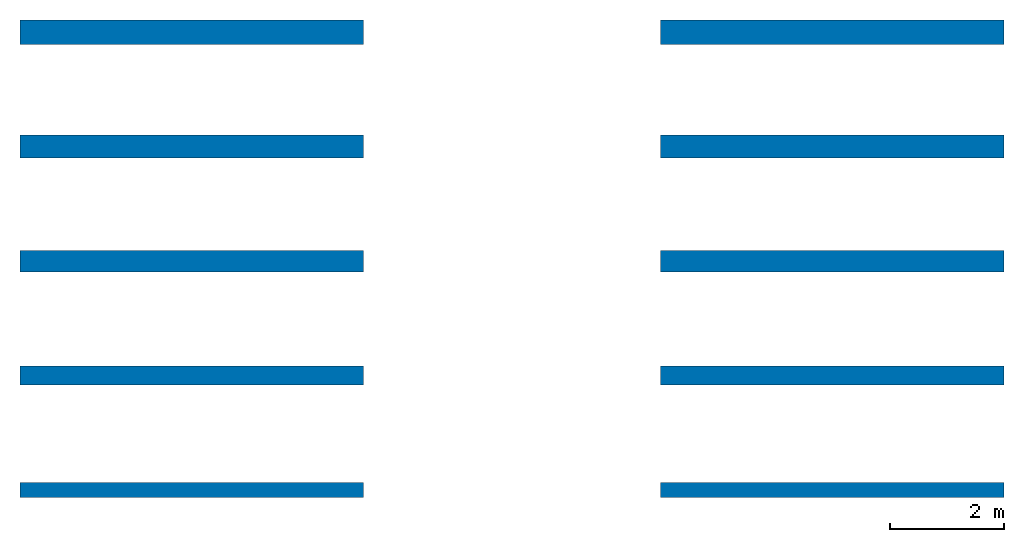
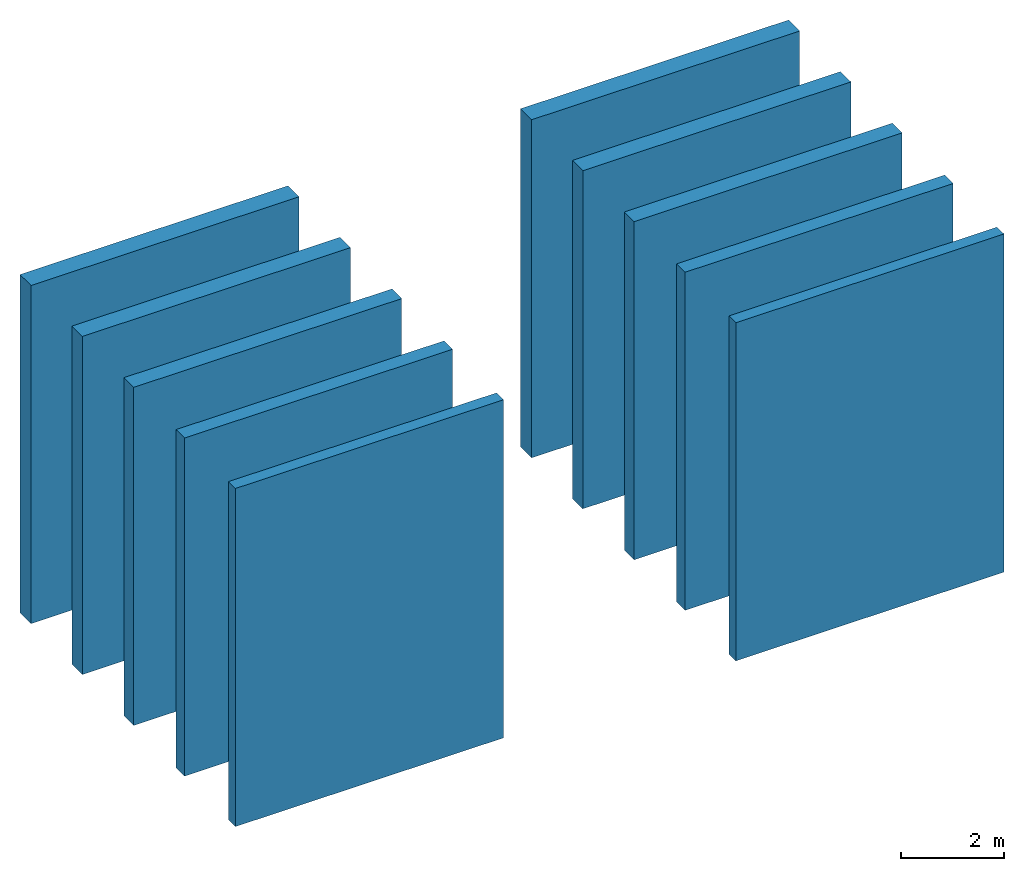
# One storey: 10 walls.
"""IFC2X3 building model written with IfcOpenShell, lengths in millimetres."""

from ifc_helpers import new_model, entity, si_unit, converted_unit, derived_unit, direction, frame, frame_2d, origin, place, context, subcontext, project, spatial, rectangle, extrude, material, layer, layer_set, layer_usage, type_object, element, save


model = new_model("IFC2X3")

# Units and contexts
model_context = context("Model", 3, precision=0.01, world=origin(), true_north=direction((6.12303176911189e-17, 1.0)))
context_of_model = context(None, 3, precision=0.01, world=origin(), true_north=direction((6.12303176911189e-17, 1.0)))
body_context = subcontext(model_context, "Body", "Model", "MODEL_VIEW")
ifc_project = project(units=[si_unit("LENGTHUNIT", "METRE", prefix="MILLI"), si_unit("AREAUNIT", "SQUARE_METRE"), si_unit("VOLUMEUNIT", "CUBIC_METRE"), converted_unit("PLANEANGLEUNIT", "DEGREE", entity("IfcRatioMeasure", 0.0174532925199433), si_unit("PLANEANGLEUNIT", "RADIAN"), dimensions=[0, 0, 0, 0, 0, 0, 0]), si_unit("MASSUNIT", "GRAM", prefix="KILO"), si_unit("TIMEUNIT", "SECOND"), si_unit("FREQUENCYUNIT", "HERTZ"), si_unit("THERMODYNAMICTEMPERATUREUNIT", "DEGREE_CELSIUS"), derived_unit("THERMALTRANSMITTANCEUNIT", [(si_unit("MASSUNIT", "GRAM", prefix="KILO"), 1), (si_unit("THERMODYNAMICTEMPERATUREUNIT", "KELVIN"), -1), (si_unit("TIMEUNIT", "SECOND"), -3)]), derived_unit("VOLUMETRICFLOWRATEUNIT", [(si_unit("LENGTHUNIT", "METRE"), 3), (si_unit("TIMEUNIT", "SECOND"), -1)]), si_unit("ELECTRICCURRENTUNIT", "AMPERE"), si_unit("ELECTRICVOLTAGEUNIT", "VOLT"), si_unit("POWERUNIT", "WATT"), si_unit("FORCEUNIT", "NEWTON", prefix="KILO"), si_unit("ILLUMINANCEUNIT", "LUX"), si_unit("LUMINOUSFLUXUNIT", "LUMEN"), si_unit("LUMINOUSINTENSITYUNIT", "CANDELA"), si_unit("PRESSUREUNIT", "PASCAL")], contexts=[model_context, context_of_model])

# Site, building, storey
site_placement = place(None, origin())
site = spatial("IfcSite", under=ifc_project, at=site_placement, Name="Default", CompositionType="ELEMENT")
building_placement = place(site_placement, origin())
building = spatial("IfcBuilding", under=site, at=building_placement, CompositionType="ELEMENT")
storey_placement = place(building_placement, origin())
storey = spatial("IfcBuildingStorey", under=building, at=storey_placement, Name="Livello 1", CompositionType="ELEMENT", Elevation=0.0)

# Walls
ifc_material_1 = material(Name="tonachino colorato ai silicati/silossani di finitura")
ifc_layer_1 = layer(ifc_material_1, 2.0)
ifc_material_2 = material(Name="GASBETON Multiraso esterni")
ifc_layer_2 = layer(ifc_material_2, 5.0)
ifc_material_3 = material(Name="GASBETON Multicem")
ifc_layer_3 = layer(ifc_material_3, 15.0)
ifc_material_4 = material(Name="GASBETON Sysmic")
ifc_layer_4 = layer(ifc_material_4, 400.0)
ifc_material_5 = material(Name="GASBETON Incollarasa")
ifc_layer_5 = layer(ifc_material_5, 5.00000000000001)
ifc_material_6 = material(Name="GASBETON Multiraso interni")
ifc_layer_6 = layer(ifc_material_6, 2.00000000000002)
ifc_layer_set_1 = layer_set([ifc_layer_1, ifc_layer_2, ifc_layer_3, ifc_layer_4, ifc_layer_5, ifc_layer_6], Name="Muro di base:Sistema GASBETON Sysmic sp. 429 mm muratura portante")
ifc_layer_usage_1 = layer_usage(ifc_layer_set_1, "AXIS2", "NEGATIVE", 214.5)
wall_type_1 = type_object("IfcWallType", Name="Muro di base:Sistema GASBETON Sysmic sp. 429 mm muratura portante", PredefinedType="STANDARD", material=ifc_layer_set_1)
wall_1_placement = place(storey_placement, frame((-2530.39888114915, 8446.74124989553, 0.0), z_axis=(0.0, 0.0, 1.0), x_axis=(-1.0, 0.0, 0.0)))
element("IfcWallStandardCase", 1, at=wall_1_placement, inside=storey, type_object=wall_type_1, material=ifc_layer_usage_1, Name="Muro di base:Sistema GASBETON Sysmic sp. 429 mm muratura portante", ObjectType="Muro di base:Sistema GASBETON Sysmic sp. 429 mm muratura portante", context=body_context, shape_type="SweptSolid", body=[
    extrude(rectangle(XDim=6000.0, YDim=429.0, at=frame_2d((3000.0, 0.0), x_axis=(-1.0, 0.0))), origin(), (0.0, 0.0, 1.0), 8000.0),
])
ifc_layer_7 = layer(ifc_material_1, 2.0)
ifc_layer_8 = layer(ifc_material_2, 5.0)
ifc_layer_9 = layer(ifc_material_3, 15.0)
ifc_layer_10 = layer(ifc_material_4, 375.0)
ifc_layer_11 = layer(ifc_material_5, 5.00000000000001)
ifc_layer_12 = layer(ifc_material_6, 2.00000000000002)
ifc_layer_set_2 = layer_set([ifc_layer_7, ifc_layer_8, ifc_layer_9, ifc_layer_10, ifc_layer_11, ifc_layer_12], Name="Muro di base:Sistema GASBETON Sysmic sp. 404 mm muratura portante")
ifc_layer_usage_2 = layer_usage(ifc_layer_set_2, "AXIS2", "NEGATIVE", 202.0)
wall_type_2 = type_object("IfcWallType", Name="Muro di base:Sistema GASBETON Sysmic sp. 404 mm muratura portante", PredefinedType="STANDARD", material=ifc_layer_set_2)
wall_2_placement = place(storey_placement, frame((-2530.39888114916, 6446.74124989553, 0.0), z_axis=(0.0, 0.0, 1.0), x_axis=(-1.0, 0.0, 0.0)))
element("IfcWallStandardCase", 2, at=wall_2_placement, inside=storey, type_object=wall_type_2, material=ifc_layer_usage_2, Name="Muro di base:Sistema GASBETON Sysmic sp. 404 mm muratura portante", ObjectType="Muro di base:Sistema GASBETON Sysmic sp. 404 mm muratura portante", context=body_context, shape_type="SweptSolid", body=[
    extrude(rectangle(XDim=6000.0, YDim=403.999999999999, at=frame_2d((3000.0, 0.0), x_axis=(-1.0, 0.0))), origin(), (0.0, 0.0, 1.0), 8000.0),
])
ifc_layer_13 = layer(ifc_material_1, 2.0)
ifc_layer_14 = layer(ifc_material_2, 5.0)
ifc_layer_15 = layer(ifc_material_3, 15.0)
ifc_layer_16 = layer(ifc_material_4, 350.0)
ifc_layer_17 = layer(ifc_material_5, 5.00000000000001)
ifc_layer_18 = layer(ifc_material_6, 2.00000000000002)
ifc_layer_set_3 = layer_set([ifc_layer_13, ifc_layer_14, ifc_layer_15, ifc_layer_16, ifc_layer_17, ifc_layer_18], Name="Muro di base:Sistema GASBETON Sysmic sp. 379 mm muratura portante")
ifc_layer_usage_3 = layer_usage(ifc_layer_set_3, "AXIS2", "NEGATIVE", 189.5)
wall_type_3 = type_object("IfcWallType", Name="Muro di base:Sistema GASBETON Sysmic sp. 379 mm muratura portante", PredefinedType="STANDARD", material=ifc_layer_set_3)
wall_3_placement = place(storey_placement, frame((-2530.39888114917, 4446.74124989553, 0.0), z_axis=(0.0, 0.0, 1.0), x_axis=(-1.0, 0.0, 0.0)))
element("IfcWallStandardCase", 3, at=wall_3_placement, inside=storey, type_object=wall_type_3, material=ifc_layer_usage_3, Name="Muro di base:Sistema GASBETON Sysmic sp. 379 mm muratura portante", ObjectType="Muro di base:Sistema GASBETON Sysmic sp. 379 mm muratura portante", context=body_context, shape_type="SweptSolid", body=[
    extrude(rectangle(XDim=6000.0, YDim=379.0, at=frame_2d((3000.0, 0.0), x_axis=(-1.0, 0.0))), origin(), (0.0, 0.0, 1.0), 8000.0),
])
ifc_layer_19 = layer(ifc_material_1, 2.0)
ifc_layer_20 = layer(ifc_material_2, 5.0)
ifc_layer_21 = layer(ifc_material_3, 15.0)
ifc_layer_22 = layer(ifc_material_4, 300.0)
ifc_layer_23 = layer(ifc_material_5, 5.00000000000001)
ifc_layer_24 = layer(ifc_material_6, 2.00000000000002)
ifc_layer_set_4 = layer_set([ifc_layer_19, ifc_layer_20, ifc_layer_21, ifc_layer_22, ifc_layer_23, ifc_layer_24], Name="Muro di base:Sistema GASBETON Sysmic sp. 329 mm muratura portante")
ifc_layer_usage_4 = layer_usage(ifc_layer_set_4, "AXIS2", "NEGATIVE", 164.5)
wall_type_4 = type_object("IfcWallType", Name="Muro di base:Sistema GASBETON Sysmic sp. 329 mm muratura portante", PredefinedType="STANDARD", material=ifc_layer_set_4)
wall_4_placement = place(storey_placement, frame((-2530.39888114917, 2446.74124989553, 0.0), z_axis=(0.0, 0.0, 1.0), x_axis=(-1.0, 0.0, 0.0)))
element("IfcWallStandardCase", 4, at=wall_4_placement, inside=storey, type_object=wall_type_4, material=ifc_layer_usage_4, Name="Muro di base:Sistema GASBETON Sysmic sp. 329 mm muratura portante", ObjectType="Muro di base:Sistema GASBETON Sysmic sp. 329 mm muratura portante", context=body_context, shape_type="SweptSolid", body=[
    extrude(rectangle(XDim=6000.0, YDim=329.0, at=frame_2d((3000.0, 0.0), x_axis=(-1.0, 0.0))), origin(), (0.0, 0.0, 1.0), 8000.0),
])
ifc_layer_25 = layer(ifc_material_1, 2.0)
ifc_layer_26 = layer(ifc_material_2, 5.0)
ifc_layer_27 = layer(ifc_material_3, 15.0)
ifc_layer_28 = layer(ifc_material_4, 240.0)
ifc_layer_29 = layer(ifc_material_5, 5.00000000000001)
ifc_layer_30 = layer(ifc_material_6, 2.00000000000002)
ifc_layer_set_5 = layer_set([ifc_layer_25, ifc_layer_26, ifc_layer_27, ifc_layer_28, ifc_layer_29, ifc_layer_30], Name="Muro di base:Sistema GASBETON Sysmic sp. 269 mm muratura portante")
ifc_layer_usage_5 = layer_usage(ifc_layer_set_5, "AXIS2", "NEGATIVE", 134.5)
wall_type_5 = type_object("IfcWallType", Name="Muro di base:Sistema GASBETON Sysmic sp. 269 mm muratura portante", PredefinedType="STANDARD", material=ifc_layer_set_5)
wall_5_placement = place(storey_placement, frame((-2530.39888114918, 446.741249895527, 0.0), z_axis=(0.0, 0.0, 1.0), x_axis=(-1.0, 0.0, 0.0)))
element("IfcWallStandardCase", 5, at=wall_5_placement, inside=storey, type_object=wall_type_5, material=ifc_layer_usage_5, Name="Muro di base:Sistema GASBETON Sysmic sp. 269 mm muratura portante", ObjectType="Muro di base:Sistema GASBETON Sysmic sp. 269 mm muratura portante", context=body_context, shape_type="SweptSolid", body=[
    extrude(rectangle(XDim=6000.0, YDim=269.0, at=frame_2d((3000.0, 0.0), x_axis=(-1.0, 0.0))), origin(), (0.0, 0.0, 1.0), 8000.0),
])
ifc_layer_31 = layer(ifc_material_1, 2.0)
ifc_layer_32 = layer(ifc_material_2, 5.0)
ifc_layer_33 = layer(ifc_material_3, 15.0)
ifc_layer_34 = layer(ifc_material_4, 240.0)
ifc_layer_35 = layer(ifc_material_5, 5.00000000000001)
ifc_layer_36 = layer(ifc_material_6, 2.00000000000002)
ifc_layer_set_6 = layer_set([ifc_layer_31, ifc_layer_32, ifc_layer_33, ifc_layer_34, ifc_layer_35, ifc_layer_36], Name="Muro di base:Sistema GASBETON Sysmic+ IDRO sp. 269 mm muratura portante")
ifc_layer_usage_6 = layer_usage(ifc_layer_set_6, "AXIS2", "NEGATIVE", 134.5)
wall_type_6 = type_object("IfcWallType", Name="Muro di base:Sistema GASBETON Sysmic+ IDRO sp. 269 mm muratura portante", PredefinedType="STANDARD", material=ifc_layer_set_6)
wall_6_placement = place(storey_placement, frame((2669.60111885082, 446.741249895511, 0.0)))
element("IfcWallStandardCase", 6, at=wall_6_placement, inside=storey, type_object=wall_type_6, material=ifc_layer_usage_6, Name="Muro di base:Sistema GASBETON Sysmic+ IDRO sp. 269 mm muratura portante", ObjectType="Muro di base:Sistema GASBETON Sysmic+ IDRO sp. 269 mm muratura portante", context=body_context, shape_type="SweptSolid", body=[
    extrude(rectangle(XDim=6000.0, YDim=269.0, at=frame_2d((3000.0, 0.0), x_axis=(-1.0, 0.0))), origin(), (0.0, 0.0, 1.0), 8000.0),
])
ifc_layer_37 = layer(ifc_material_1, 2.0)
ifc_layer_38 = layer(ifc_material_2, 5.0)
ifc_layer_39 = layer(ifc_material_3, 15.0)
ifc_layer_40 = layer(ifc_material_4, 400.0)
ifc_layer_41 = layer(ifc_material_5, 5.00000000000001)
ifc_layer_42 = layer(ifc_material_6, 2.00000000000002)
ifc_layer_set_7 = layer_set([ifc_layer_37, ifc_layer_38, ifc_layer_39, ifc_layer_40, ifc_layer_41, ifc_layer_42], Name="Muro di base:Sistema GASBETON Sysmic+ IDRO sp. 429 mm muratura portante")
ifc_layer_usage_7 = layer_usage(ifc_layer_set_7, "AXIS2", "NEGATIVE", 214.5)
wall_type_7 = type_object("IfcWallType", Name="Muro di base:Sistema GASBETON Sysmic+ IDRO sp. 429 mm muratura portante", PredefinedType="STANDARD", material=ifc_layer_set_7)
wall_7_placement = place(storey_placement, frame((8669.60111885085, 8446.74124989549, 0.0), z_axis=(0.0, 0.0, 1.0), x_axis=(-1.0, 0.0, 0.0)))
element("IfcWallStandardCase", 7, at=wall_7_placement, inside=storey, type_object=wall_type_7, material=ifc_layer_usage_7, Name="Muro di base:Sistema GASBETON Sysmic+ IDRO sp. 429 mm muratura portante", ObjectType="Muro di base:Sistema GASBETON Sysmic+ IDRO sp. 429 mm muratura portante", context=body_context, shape_type="SweptSolid", body=[
    extrude(rectangle(XDim=6000.0, YDim=429.0, at=frame_2d((3000.0, 0.0), x_axis=(-1.0, 0.0))), origin(), (0.0, 0.0, 1.0), 8000.0),
])
ifc_layer_43 = layer(ifc_material_1, 2.0)
ifc_layer_44 = layer(ifc_material_2, 5.0)
ifc_layer_45 = layer(ifc_material_3, 15.0)
ifc_layer_46 = layer(ifc_material_4, 375.0)
ifc_layer_47 = layer(ifc_material_5, 5.00000000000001)
ifc_layer_48 = layer(ifc_material_6, 2.00000000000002)
ifc_layer_set_8 = layer_set([ifc_layer_43, ifc_layer_44, ifc_layer_45, ifc_layer_46, ifc_layer_47, ifc_layer_48], Name="Muro di base:Sistema GASBETON Sysmic+ IDRO sp. 404 mm muratura portante")
ifc_layer_usage_8 = layer_usage(ifc_layer_set_8, "AXIS2", "NEGATIVE", 202.0)
wall_type_8 = type_object("IfcWallType", Name="Muro di base:Sistema GASBETON Sysmic+ IDRO sp. 404 mm muratura portante", PredefinedType="STANDARD", material=ifc_layer_set_8)
wall_8_placement = place(storey_placement, frame((8669.60111885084, 6446.74124989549, 0.0), z_axis=(0.0, 0.0, 1.0), x_axis=(-1.0, 0.0, 0.0)))
element("IfcWallStandardCase", 8, at=wall_8_placement, inside=storey, type_object=wall_type_8, material=ifc_layer_usage_8, Name="Muro di base:Sistema GASBETON Sysmic+ IDRO sp. 404 mm muratura portante", ObjectType="Muro di base:Sistema GASBETON Sysmic+ IDRO sp. 404 mm muratura portante", context=body_context, shape_type="SweptSolid", body=[
    extrude(rectangle(XDim=6000.0, YDim=403.999999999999, at=frame_2d((3000.0, 0.0), x_axis=(-1.0, 0.0))), origin(), (0.0, 0.0, 1.0), 8000.0),
])
ifc_layer_49 = layer(ifc_material_1, 2.0)
ifc_layer_50 = layer(ifc_material_2, 5.0)
ifc_layer_51 = layer(ifc_material_3, 15.0)
ifc_layer_52 = layer(ifc_material_4, 350.0)
ifc_layer_53 = layer(ifc_material_5, 5.00000000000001)
ifc_layer_54 = layer(ifc_material_6, 2.00000000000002)
ifc_layer_set_9 = layer_set([ifc_layer_49, ifc_layer_50, ifc_layer_51, ifc_layer_52, ifc_layer_53, ifc_layer_54], Name="Muro di base:Sistema GASBETON Sysmic+ IDRO sp. 379 mm muratura portante")
ifc_layer_usage_9 = layer_usage(ifc_layer_set_9, "AXIS2", "NEGATIVE", 189.5)
wall_type_9 = type_object("IfcWallType", Name="Muro di base:Sistema GASBETON Sysmic+ IDRO sp. 379 mm muratura portante", PredefinedType="STANDARD", material=ifc_layer_set_9)
wall_9_placement = place(storey_placement, frame((8669.60111885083, 4446.74124989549, 0.0), z_axis=(0.0, 0.0, 1.0), x_axis=(-1.0, 0.0, 0.0)))
element("IfcWallStandardCase", 9, at=wall_9_placement, inside=storey, type_object=wall_type_9, material=ifc_layer_usage_9, Name="Muro di base:Sistema GASBETON Sysmic+ IDRO sp. 379 mm muratura portante", ObjectType="Muro di base:Sistema GASBETON Sysmic+ IDRO sp. 379 mm muratura portante", context=body_context, shape_type="SweptSolid", body=[
    extrude(rectangle(XDim=6000.0, YDim=379.0, at=frame_2d((3000.0, 0.0), x_axis=(-1.0, 0.0))), origin(), (0.0, 0.0, 1.0), 8000.0),
])
ifc_layer_55 = layer(ifc_material_1, 2.0)
ifc_layer_56 = layer(ifc_material_2, 5.0)
ifc_layer_57 = layer(ifc_material_3, 15.0)
ifc_layer_58 = layer(ifc_material_4, 300.0)
ifc_layer_59 = layer(ifc_material_5, 5.00000000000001)
ifc_layer_60 = layer(ifc_material_6, 2.00000000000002)
ifc_layer_set_10 = layer_set([ifc_layer_55, ifc_layer_56, ifc_layer_57, ifc_layer_58, ifc_layer_59, ifc_layer_60], Name="Muro di base:Sistema GASBETON Sysmic+ IDRO sp. 329 mm muratura portante")
ifc_layer_usage_10 = layer_usage(ifc_layer_set_10, "AXIS2", "NEGATIVE", 164.5)
wall_type_10 = type_object("IfcWallType", Name="Muro di base:Sistema GASBETON Sysmic+ IDRO sp. 329 mm muratura portante", PredefinedType="STANDARD", material=ifc_layer_set_10)
wall_10_placement = place(storey_placement, frame((8669.60111885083, 2446.74124989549, 0.0), z_axis=(0.0, 0.0, 1.0), x_axis=(-1.0, 0.0, 0.0)))
element("IfcWallStandardCase", 10, at=wall_10_placement, inside=storey, type_object=wall_type_10, material=ifc_layer_usage_10, Name="Muro di base:Sistema GASBETON Sysmic+ IDRO sp. 329 mm muratura portante", ObjectType="Muro di base:Sistema GASBETON Sysmic+ IDRO sp. 329 mm muratura portante", context=body_context, shape_type="SweptSolid", body=[
    extrude(rectangle(XDim=6000.0, YDim=329.0, at=frame_2d((3000.0, 0.0), x_axis=(-1.0, 0.0))), origin(), (0.0, 0.0, 1.0), 8000.0),
])

save(model, "model.ifc")
